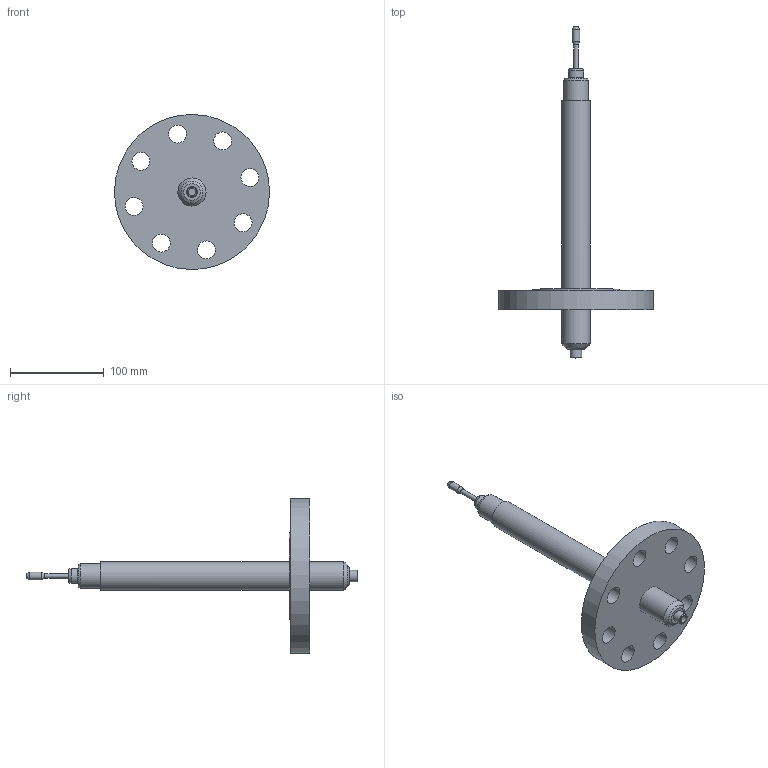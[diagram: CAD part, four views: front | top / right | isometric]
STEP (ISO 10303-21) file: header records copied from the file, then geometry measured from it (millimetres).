
FILE_DESCRIPTION(/* description */ ('Unknown','CAx-IF Rec.Pracs.---Representation and Presentation of Product Manufacturing Information (PMI)---4.0---2014-10-13','CAx-IF Rec.Pracs.---3D Tessellated Geometry---0.4---2014-09-14','2;1'),/* implementation_level */ '2;1');
FILE_NAME(/* name */ 'A_153_ANSI_2inch_200lb_RF',/* time_stamp */ '2022-01-13T10:57:50+01:00',/* author */ ('Unknown'),/* organization */ ('Unknown'),/* preprocessor_version */ 'ST-DEVELOPER v16.7',/* originating_system */ 'Solid Edge',/* authorisation */ 'Unknown');
FILE_SCHEMA (('AP242_MANAGED_MODEL_BASED_3D_ENGINEERING_MIM_LF { 1 0 10303 442 1 1 4 }'));
Length unit declared in the file: millimetre
Products named in the file (1): 10520_A
Bounding box: 165.08 x 353.4 x 165.08 mm (x, y, z)
Volume: 590611.9 mm3; surface area: 85521.1 mm2
Topology: 1 solids, 1 shells, 38 faces, 76 edges, 48 vertices
Faces by surface type: cylinder 18, plane 10, cone 7, torus 3
Full cylindrical faces by diameter (mm): 5 x1, 8 x2, 12 x1, 16 x1, 19.05 x8, 26 x1, 30 x2, 91.948 x1, 165.1 x1
Entity records: 1149 total; most frequent: DIRECTION 168, CARTESIAN_POINT 129, ORIENTED_EDGE 90, EDGE_LOOP 90, FACE_BOUND 90, AXIS2_PLACEMENT_3D 84, EDGE_CURVE 45, VERTEX_POINT 45
